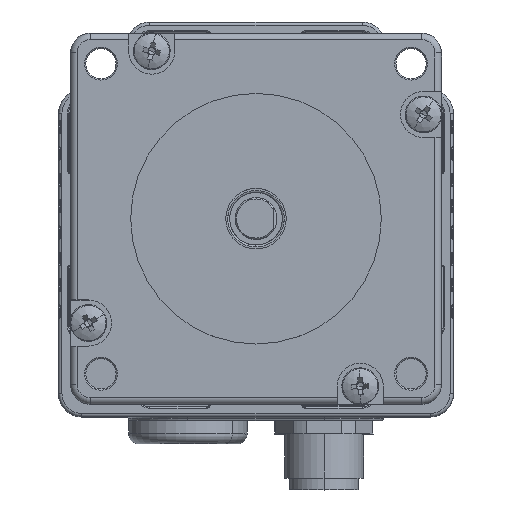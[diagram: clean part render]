
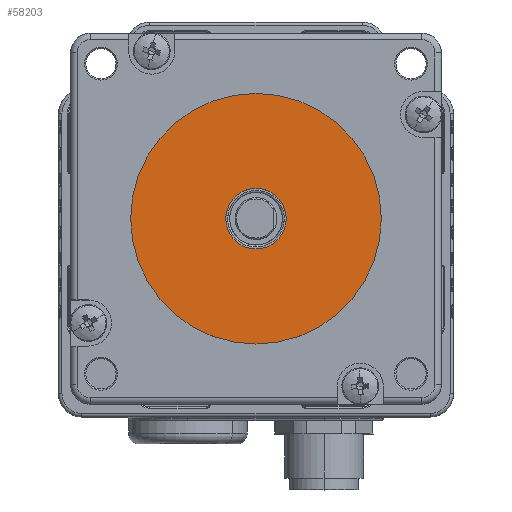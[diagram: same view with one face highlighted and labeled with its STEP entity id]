
A CAD part, top view. The second image highlights one B-rep face of the part: STEP entity #58203.
In plain terms, the highlighted planar face has unit normal (0, 0, 1).
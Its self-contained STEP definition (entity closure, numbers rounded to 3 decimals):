
#5565 = CIRCLE ( 'NONE', #137714, 4.6 ) ;
#5679 = FACE_OUTER_BOUND ( 'NONE', #50168, .T. ) ;
#12410 = DIRECTION ( 'NONE',  ( -1., 0., 0. ) ) ;
#13424 = AXIS2_PLACEMENT_3D ( 'NONE', #38024, #104600, #159526 ) ;
#21830 = FACE_BOUND ( 'NONE', #171529, .T. ) ;
#25929 = CARTESIAN_POINT ( 'NONE',  ( -7.414, 2.271, 28.195 ) ) ;
#34516 = VERTEX_POINT ( 'NONE', #37508 ) ;
#36685 = CIRCLE ( 'NONE', #122829, 19.05 ) ;
#37352 = DIRECTION ( 'NONE',  ( -1., 0., 0. ) ) ;
#37508 = CARTESIAN_POINT ( 'NONE',  ( -26.464, 2.271, 28.195 ) ) ;
#38024 = CARTESIAN_POINT ( 'NONE',  ( -7.414, 2.271, 28.195 ) ) ;
#50168 = EDGE_LOOP ( 'NONE', ( #131517, #122797 ) ) ;
#55679 = VERTEX_POINT ( 'NONE', #123446 ) ;
#58203 = ADVANCED_FACE ( 'NONE', ( #21830, #5679 ), #89323, .T. ) ;
#64047 = AXIS2_PLACEMENT_3D ( 'NONE', #163914, #174728, #81100 ) ;
#73714 = CIRCLE ( 'NONE', #13424, 19.05 ) ;
#80730 = DIRECTION ( 'NONE',  ( 0., 0., -1. ) ) ;
#81100 = DIRECTION ( 'NONE',  ( 1., 0., 0. ) ) ;
#82127 = CARTESIAN_POINT ( 'NONE',  ( -7.414, 2.271, 28.195 ) ) ;
#85743 = EDGE_CURVE ( 'NONE', #55679, #34516, #73714, .T. ) ;
#89323 = PLANE ( 'NONE',  #64047 ) ;
#91324 = CARTESIAN_POINT ( 'NONE',  ( -7.414, 2.271, 28.195 ) ) ;
#91915 = CARTESIAN_POINT ( 'NONE',  ( -2.814, 2.271, 28.195 ) ) ;
#92222 = DIRECTION ( 'NONE',  ( 0., 0., -1. ) ) ;
#98692 = VERTEX_POINT ( 'NONE', #167838 ) ;
#99753 = EDGE_CURVE ( 'NONE', #98692, #102321, #5565, .T. ) ;
#102321 = VERTEX_POINT ( 'NONE', #91915 ) ;
#104551 = EDGE_CURVE ( 'NONE', #34516, #55679, #36685, .T. ) ;
#104600 = DIRECTION ( 'NONE',  ( 0., 0., 1. ) ) ;
#118271 = CIRCLE ( 'NONE', #147025, 4.6 ) ;
#120830 = DIRECTION ( 'NONE',  ( 1., 0., 0. ) ) ;
#122797 = ORIENTED_EDGE ( 'NONE', *, *, #104551, .T. ) ;
#122829 = AXIS2_PLACEMENT_3D ( 'NONE', #82127, #137036, #120830 ) ;
#123446 = CARTESIAN_POINT ( 'NONE',  ( 11.636, 2.271, 28.195 ) ) ;
#126901 = EDGE_CURVE ( 'NONE', #102321, #98692, #118271, .T. ) ;
#131517 = ORIENTED_EDGE ( 'NONE', *, *, #85743, .T. ) ;
#133231 = ORIENTED_EDGE ( 'NONE', *, *, #99753, .T. ) ;
#137036 = DIRECTION ( 'NONE',  ( 0., 0., 1. ) ) ;
#137714 = AXIS2_PLACEMENT_3D ( 'NONE', #91324, #92222, #37352 ) ;
#147025 = AXIS2_PLACEMENT_3D ( 'NONE', #25929, #80730, #12410 ) ;
#159526 = DIRECTION ( 'NONE',  ( 1., 0., 0. ) ) ;
#163914 = CARTESIAN_POINT ( 'NONE',  ( 20.786, -25.929, 28.195 ) ) ;
#167838 = CARTESIAN_POINT ( 'NONE',  ( -12.014, 2.271, 28.195 ) ) ;
#171529 = EDGE_LOOP ( 'NONE', ( #133231, #175451 ) ) ;
#174728 = DIRECTION ( 'NONE',  ( 0., 0., 1. ) ) ;
#175451 = ORIENTED_EDGE ( 'NONE', *, *, #126901, .T. ) ;
